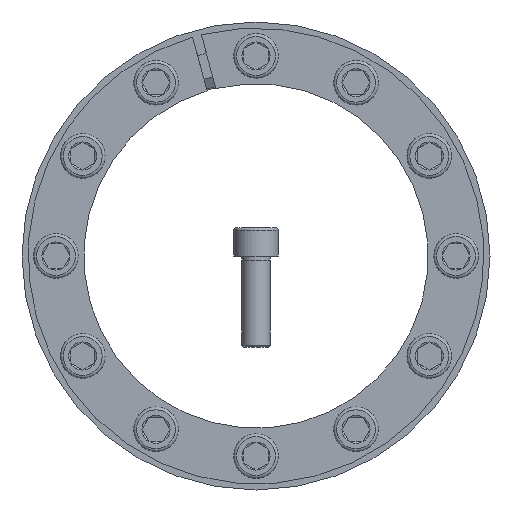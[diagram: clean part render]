
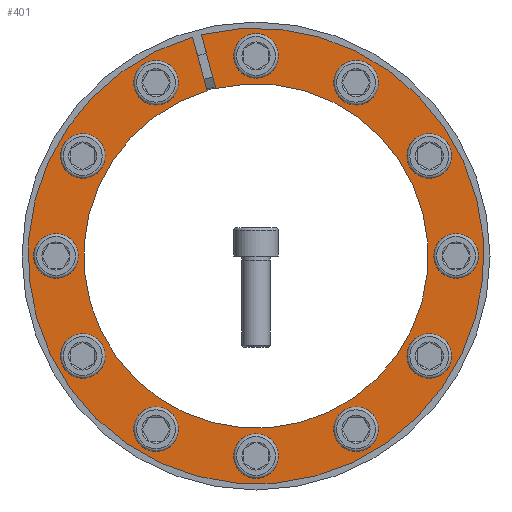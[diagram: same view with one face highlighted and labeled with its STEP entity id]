
A CAD part, front view. The second image highlights one B-rep face of the part: STEP entity #401.
In plain terms, the highlighted planar face has unit normal (0, -1, 0).
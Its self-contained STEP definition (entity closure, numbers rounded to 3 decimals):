
#401 = ADVANCED_FACE( '', ( #622, #623, #624, #625, #626, #627, #628, #629, #630, #631, #632, #633, #634 ), #635, .T. );
#622 = FACE_BOUND( '', #844, .T. );
#623 = FACE_BOUND( '', #845, .T. );
#624 = FACE_BOUND( '', #846, .T. );
#625 = FACE_BOUND( '', #847, .T. );
#626 = FACE_BOUND( '', #848, .T. );
#627 = FACE_BOUND( '', #849, .T. );
#628 = FACE_BOUND( '', #850, .T. );
#629 = FACE_BOUND( '', #851, .T. );
#630 = FACE_BOUND( '', #852, .T. );
#631 = FACE_BOUND( '', #853, .T. );
#632 = FACE_BOUND( '', #854, .T. );
#633 = FACE_BOUND( '', #855, .T. );
#634 = FACE_OUTER_BOUND( '', #856, .T. );
#635 = PLANE( '', #857 );
#844 = EDGE_LOOP( '', ( #1091 ) );
#845 = EDGE_LOOP( '', ( #1092 ) );
#846 = EDGE_LOOP( '', ( #1093 ) );
#847 = EDGE_LOOP( '', ( #1094 ) );
#848 = EDGE_LOOP( '', ( #1095 ) );
#849 = EDGE_LOOP( '', ( #1096 ) );
#850 = EDGE_LOOP( '', ( #1097 ) );
#851 = EDGE_LOOP( '', ( #1098 ) );
#852 = EDGE_LOOP( '', ( #1099 ) );
#853 = EDGE_LOOP( '', ( #1100 ) );
#854 = EDGE_LOOP( '', ( #1101 ) );
#855 = EDGE_LOOP( '', ( #1102 ) );
#856 = EDGE_LOOP( '', ( #1103, #1104, #1105, #1106 ) );
#857 = AXIS2_PLACEMENT_3D( '', #1107, #1108, #1109 );
#1091 = ORIENTED_EDGE( '', *, *, #1627, .T. );
#1092 = ORIENTED_EDGE( '', *, *, #1628, .T. );
#1093 = ORIENTED_EDGE( '', *, *, #1629, .T. );
#1094 = ORIENTED_EDGE( '', *, *, #1630, .T. );
#1095 = ORIENTED_EDGE( '', *, *, #1631, .T. );
#1096 = ORIENTED_EDGE( '', *, *, #1632, .T. );
#1097 = ORIENTED_EDGE( '', *, *, #1633, .T. );
#1098 = ORIENTED_EDGE( '', *, *, #1634, .T. );
#1099 = ORIENTED_EDGE( '', *, *, #1635, .T. );
#1100 = ORIENTED_EDGE( '', *, *, #1636, .T. );
#1101 = ORIENTED_EDGE( '', *, *, #1637, .T. );
#1102 = ORIENTED_EDGE( '', *, *, #1638, .T. );
#1103 = ORIENTED_EDGE( '', *, *, #1639, .T. );
#1104 = ORIENTED_EDGE( '', *, *, #1640, .F. );
#1105 = ORIENTED_EDGE( '', *, *, #1641, .F. );
#1106 = ORIENTED_EDGE( '', *, *, #1642, .T. );
#1107 = CARTESIAN_POINT( '', ( 0., 0., 112.5 ) );
#1108 = DIRECTION( '', ( 0., -1., 0. ) );
#1109 = DIRECTION( '', ( 0., 0., -1. ) );
#1627 = EDGE_CURVE( '', #1813, #1813, #1814, .T. );
#1628 = EDGE_CURVE( '', #1815, #1815, #1816, .T. );
#1629 = EDGE_CURVE( '', #1817, #1817, #1818, .T. );
#1630 = EDGE_CURVE( '', #1819, #1819, #1820, .T. );
#1631 = EDGE_CURVE( '', #1821, #1821, #1822, .T. );
#1632 = EDGE_CURVE( '', #1823, #1823, #1824, .T. );
#1633 = EDGE_CURVE( '', #1825, #1825, #1826, .T. );
#1634 = EDGE_CURVE( '', #1827, #1827, #1828, .T. );
#1635 = EDGE_CURVE( '', #1829, #1829, #1830, .T. );
#1636 = EDGE_CURVE( '', #1831, #1831, #1832, .T. );
#1637 = EDGE_CURVE( '', #1833, #1833, #1834, .T. );
#1638 = EDGE_CURVE( '', #1835, #1835, #1836, .T. );
#1639 = EDGE_CURVE( '', #1837, #1838, #1839, .T. );
#1640 = EDGE_CURVE( '', #1840, #1838, #1841, .T. );
#1641 = EDGE_CURVE( '', #1842, #1840, #1843, .T. );
#1642 = EDGE_CURVE( '', #1842, #1837, #1844, .T. );
#1813 = VERTEX_POINT( '', #2023 );
#1814 = CIRCLE( '', #2024, 7. );
#1815 = VERTEX_POINT( '', #2025 );
#1816 = CIRCLE( '', #2026, 7. );
#1817 = VERTEX_POINT( '', #2027 );
#1818 = CIRCLE( '', #2028, 7. );
#1819 = VERTEX_POINT( '', #2029 );
#1820 = CIRCLE( '', #2030, 7. );
#1821 = VERTEX_POINT( '', #2031 );
#1822 = CIRCLE( '', #2032, 7. );
#1823 = VERTEX_POINT( '', #2033 );
#1824 = CIRCLE( '', #2034, 7. );
#1825 = VERTEX_POINT( '', #2035 );
#1826 = CIRCLE( '', #2036, 7. );
#1827 = VERTEX_POINT( '', #2037 );
#1828 = CIRCLE( '', #2038, 7. );
#1829 = VERTEX_POINT( '', #2039 );
#1830 = CIRCLE( '', #2040, 7. );
#1831 = VERTEX_POINT( '', #2041 );
#1832 = CIRCLE( '', #2042, 7. );
#1833 = VERTEX_POINT( '', #2043 );
#1834 = CIRCLE( '', #2044, 7. );
#1835 = VERTEX_POINT( '', #2045 );
#1836 = CIRCLE( '', #2046, 7. );
#1837 = VERTEX_POINT( '', #2047 );
#1838 = VERTEX_POINT( '', #2048 );
#1839 = CIRCLE( '', #2049, 112.5 );
#1840 = VERTEX_POINT( '', #2050 );
#1841 = LINE( '', #2051, #2052 );
#1842 = VERTEX_POINT( '', #2053 );
#1843 = CIRCLE( '', #2054, 85. );
#1844 = LINE( '', #2055, #2056 );
#2023 = CARTESIAN_POINT( '', ( -43.313, 0., 89.02 ) );
#2024 = AXIS2_PLACEMENT_3D( '', #2285, #2286, #2287 );
#2025 = CARTESIAN_POINT( '', ( -98.75, 0., 7. ) );
#2026 = AXIS2_PLACEMENT_3D( '', #2288, #2289, #2290 );
#2027 = CARTESIAN_POINT( '', ( -55.437, 0., -82.02 ) );
#2028 = AXIS2_PLACEMENT_3D( '', #2291, #2292, #2293 );
#2029 = CARTESIAN_POINT( '', ( 43.313, 0., -89.02 ) );
#2030 = AXIS2_PLACEMENT_3D( '', #2294, #2295, #2296 );
#2031 = CARTESIAN_POINT( '', ( 98.75, 0., -7. ) );
#2032 = AXIS2_PLACEMENT_3D( '', #2297, #2298, #2299 );
#2033 = CARTESIAN_POINT( '', ( 55.437, 0., 82.02 ) );
#2034 = AXIS2_PLACEMENT_3D( '', #2300, #2301, #2302 );
#2035 = CARTESIAN_POINT( '', ( 7., 0., 98.75 ) );
#2036 = AXIS2_PLACEMENT_3D( '', #2303, #2304, #2305 );
#2037 = CARTESIAN_POINT( '', ( 89.02, 0., 43.313 ) );
#2038 = AXIS2_PLACEMENT_3D( '', #2306, #2307, #2308 );
#2039 = CARTESIAN_POINT( '', ( 82.02, 0., -55.437 ) );
#2040 = AXIS2_PLACEMENT_3D( '', #2309, #2310, #2311 );
#2041 = CARTESIAN_POINT( '', ( -7., 0., -98.75 ) );
#2042 = AXIS2_PLACEMENT_3D( '', #2312, #2313, #2314 );
#2043 = CARTESIAN_POINT( '', ( -89.02, 0., -43.313 ) );
#2044 = AXIS2_PLACEMENT_3D( '', #2315, #2316, #2317 );
#2045 = CARTESIAN_POINT( '', ( -82.02, 0., 55.437 ) );
#2046 = AXIS2_PLACEMENT_3D( '', #2318, #2319, #2320 );
#2047 = CARTESIAN_POINT( '', ( -31.285, 0., 108.063 ) );
#2048 = CARTESIAN_POINT( '', ( -26.938, 0., 109.227 ) );
#2049 = AXIS2_PLACEMENT_3D( '', #2321, #2322, #2323 );
#2050 = CARTESIAN_POINT( '', ( -19.819, 0., 82.657 ) );
#2051 = CARTESIAN_POINT( '', ( 2.173, 0., 0.582 ) );
#2052 = VECTOR( '', #2324, 1000. );
#2053 = CARTESIAN_POINT( '', ( -24.165, 0., 81.493 ) );
#2054 = AXIS2_PLACEMENT_3D( '', #2325, #2326, #2327 );
#2055 = CARTESIAN_POINT( '', ( -2.173, 0., -0.582 ) );
#2056 = VECTOR( '', #2328, 1000. );
#2285 = CARTESIAN_POINT( '', ( -49.375, 0., 85.52 ) );
#2286 = DIRECTION( '', ( 0., 1., 0. ) );
#2287 = DIRECTION( '', ( 0.866, 0., 0.5 ) );
#2288 = CARTESIAN_POINT( '', ( -98.75, 0., 0. ) );
#2289 = DIRECTION( '', ( 0., 1., 0. ) );
#2290 = DIRECTION( '', ( 0., 0., 1. ) );
#2291 = CARTESIAN_POINT( '', ( -49.375, 0., -85.52 ) );
#2292 = DIRECTION( '', ( 0., 1., 0. ) );
#2293 = DIRECTION( '', ( -0.866, 0., 0.5 ) );
#2294 = CARTESIAN_POINT( '', ( 49.375, 0., -85.52 ) );
#2295 = DIRECTION( '', ( 0., 1., 0. ) );
#2296 = DIRECTION( '', ( -0.866, 0., -0.5 ) );
#2297 = CARTESIAN_POINT( '', ( 98.75, 0., 0. ) );
#2298 = DIRECTION( '', ( 0., 1., 0. ) );
#2299 = DIRECTION( '', ( 0., 0., -1. ) );
#2300 = CARTESIAN_POINT( '', ( 49.375, 0., 85.52 ) );
#2301 = DIRECTION( '', ( 0., 1., 0. ) );
#2302 = DIRECTION( '', ( 0.866, 0., -0.5 ) );
#2303 = CARTESIAN_POINT( '', ( 0., 0., 98.75 ) );
#2304 = DIRECTION( '', ( 0., 1., 0. ) );
#2305 = DIRECTION( '', ( 1., 0., 0. ) );
#2306 = CARTESIAN_POINT( '', ( 85.52, 0., 49.375 ) );
#2307 = DIRECTION( '', ( 0., 1., 0. ) );
#2308 = DIRECTION( '', ( 0.5, 0., -0.866 ) );
#2309 = CARTESIAN_POINT( '', ( 85.52, 0., -49.375 ) );
#2310 = DIRECTION( '', ( 0., 1., 0. ) );
#2311 = DIRECTION( '', ( -0.5, 0., -0.866 ) );
#2312 = CARTESIAN_POINT( '', ( 0., 0., -98.75 ) );
#2313 = DIRECTION( '', ( 0., 1., 0. ) );
#2314 = DIRECTION( '', ( -1., 0., 0. ) );
#2315 = CARTESIAN_POINT( '', ( -85.52, 0., -49.375 ) );
#2316 = DIRECTION( '', ( 0., 1., 0. ) );
#2317 = DIRECTION( '', ( -0.5, 0., 0.866 ) );
#2318 = CARTESIAN_POINT( '', ( -85.52, 0., 49.375 ) );
#2319 = DIRECTION( '', ( 0., 1., 0. ) );
#2320 = DIRECTION( '', ( 0.5, 0., 0.866 ) );
#2321 = CARTESIAN_POINT( '', ( 0., 0., 0. ) );
#2322 = DIRECTION( '', ( 0., -1., 0. ) );
#2323 = DIRECTION( '', ( 0., 0., -1. ) );
#2324 = DIRECTION( '', ( -0.259, 0., 0.966 ) );
#2325 = CARTESIAN_POINT( '', ( 0., 0., 0. ) );
#2326 = DIRECTION( '', ( 0., -1., 0. ) );
#2327 = DIRECTION( '', ( 0., 0., -1. ) );
#2328 = DIRECTION( '', ( -0.259, 0., 0.966 ) );
